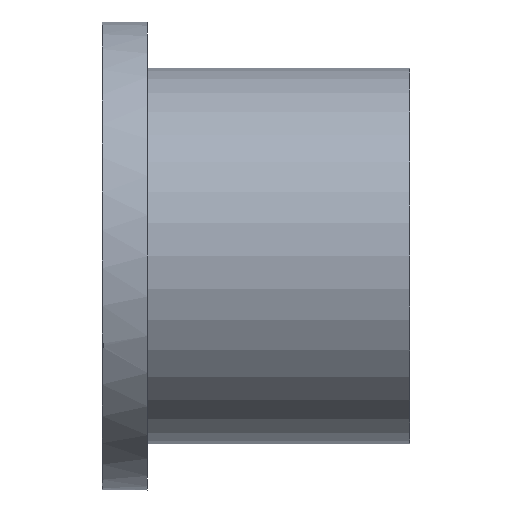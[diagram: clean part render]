
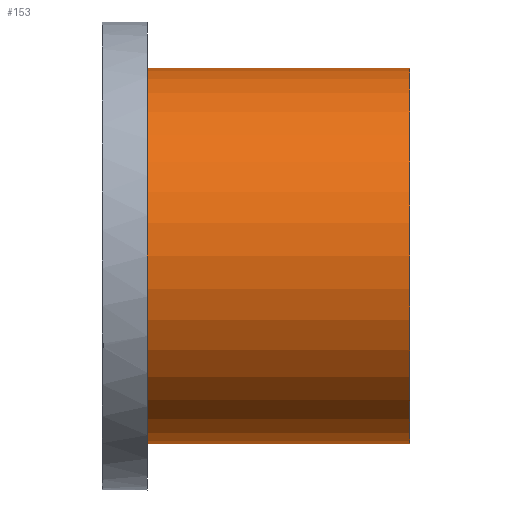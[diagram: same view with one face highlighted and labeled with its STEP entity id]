
A CAD part, front view. The second image highlights one B-rep face of the part: STEP entity #153.
In plain terms, the highlighted cylindrical face has radius 102 mm (diameter 204 mm), a full revolution.
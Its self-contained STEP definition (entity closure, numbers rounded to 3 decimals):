
#153 = ADVANCED_FACE( '', ( #316, #317 ), #318, .T. );
#316 = FACE_OUTER_BOUND( '', #538, .T. );
#317 = FACE_OUTER_BOUND( '', #539, .T. );
#318 = CYLINDRICAL_SURFACE( '', #540, 102. );
#538 = EDGE_LOOP( '', ( #803 ) );
#539 = EDGE_LOOP( '', ( #804 ) );
#540 = AXIS2_PLACEMENT_3D( '', #805, #806, #807 );
#803 = ORIENTED_EDGE( '', *, *, #1037, .T. );
#804 = ORIENTED_EDGE( '', *, *, #1038, .F. );
#805 = CARTESIAN_POINT( '', ( 157.5, 0., 0. ) );
#806 = DIRECTION( '', ( 1., 0., 0. ) );
#807 = DIRECTION( '', ( 0., 0., 1. ) );
#1037 = EDGE_CURVE( '', #1196, #1196, #1197, .T. );
#1038 = EDGE_CURVE( '', #1198, #1198, #1199, .T. );
#1196 = VERTEX_POINT( '', #1447 );
#1197 = CIRCLE( '', #1448, 102. );
#1198 = VERTEX_POINT( '', #1449 );
#1199 = CIRCLE( '', #1450, 102. );
#1447 = CARTESIAN_POINT( '', ( 157.5, 102., 0. ) );
#1448 = AXIS2_PLACEMENT_3D( '', #1640, #1641, #1642 );
#1449 = CARTESIAN_POINT( '', ( 0., 102., 0. ) );
#1450 = AXIS2_PLACEMENT_3D( '', #1643, #1644, #1645 );
#1640 = CARTESIAN_POINT( '', ( 157.5, 0., 0. ) );
#1641 = DIRECTION( '', ( -1., 0., 0. ) );
#1642 = DIRECTION( '', ( 0., 1., 0. ) );
#1643 = CARTESIAN_POINT( '', ( 0., 0., 0. ) );
#1644 = DIRECTION( '', ( -1., 0., 0. ) );
#1645 = DIRECTION( '', ( 0., 1., 0. ) );
